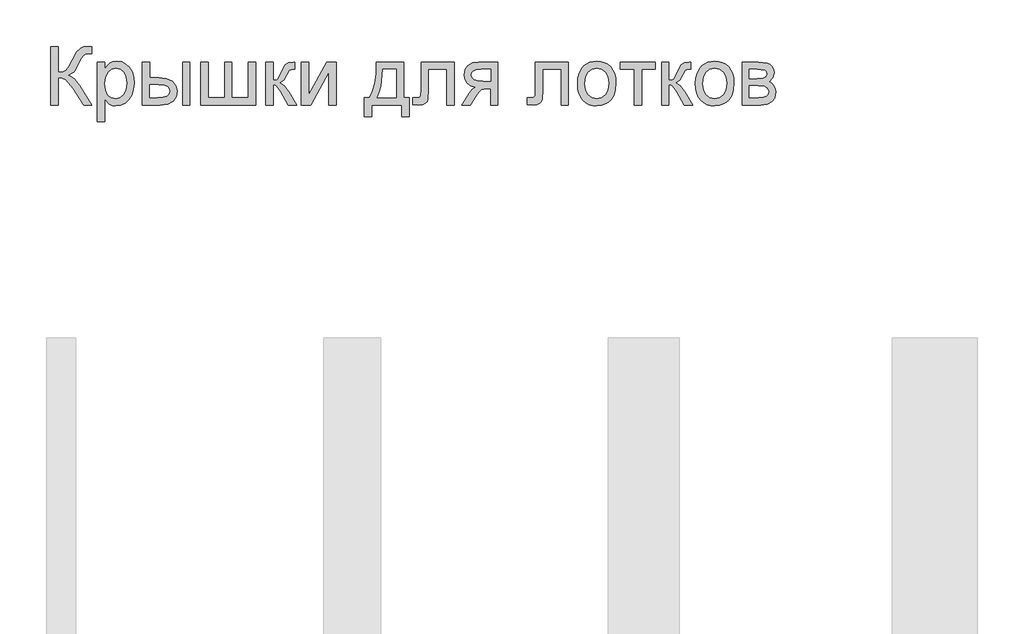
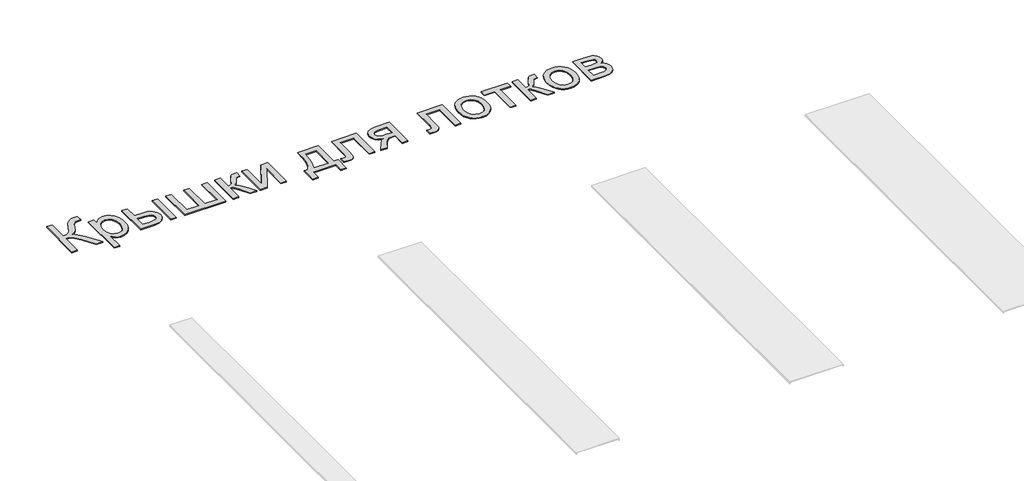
# One storey, part 10 of 11: 1 proxy.
"""IFC4 building model written with IfcOpenShell, lengths in millimetres."""

from ifc_helpers import new_model, si_unit, origin, origin_with_axes, place, context, project, spatial, polyline, outline, extrude, element, save

model = new_model("IFC4")

# Units and contexts
model_context = context("Model", 3, world=origin())
ifc_project = project(units=[si_unit("LENGTHUNIT", "METRE", prefix="MILLI")], contexts=[model_context])

# Site, building, storey
site = spatial("IfcSite", under=ifc_project)
building = spatial("IfcBuilding", under=site)
storey = spatial("IfcBuildingStorey", under=building, Name="Этаж 01", Elevation=0.0)

# Proxy
placement = place(None, origin())
element("IfcBuildingElementProxy", 1, Name="АБН_Маленькая надпись", ObjectType="АБН_Маленькая надпись", at=placement, inside=storey, context=model_context, shape_type="SweptSolid", body=[
    extrude(outline(polyline([(-9207.2203925, 12032.6703326), (-9175.8277956, 12032.6703326), (-9175.8277956, 11922.7962434), (-9154.5749462, 11924.8732439), (-9140.7257219, 11931.1042451), (-9129.5283137, 11945.7658755), (-9116.2309124, 11973.1347631), (-9098.9098018, 12008.2368368), (-9079.2894287, 12025.6192611), (-9065.9153854, 12030.9075648), (-9051.2384266, 12032.6703326), (-9030.6370349, 12032.3024507), (-9030.6370349, 12000.9098537), (-9037.5654791, 12001.0937947), (-9044.4939233, 12001.2777357), (-9058.871978, 11999.3923405), (-9069.0193897, 11993.7361548), (-9077.7565871, 11981.8566321), (-9087.6587441, 11961.4238529), (-9099.8065142, 11935.9786816), (-9109.884948, 11922.0604794), (-9131.5593289, 11909.0619823), (-9119.4000625, 11903.8886417), (-9107.3251024, 11894.8678686), (-9083.4281012, 11865.2840248), (-9030.6370349, 11781.5295573), (-9067.0573524, 11781.5295573), (-9111.6937011, 11852.2855277), (-9143.1169549, 11889.2270114), (-9157.6253011, 11896.7455996), (-9175.8277956, 11899.2517957), (-9175.8277956, 11781.5295573), (-9207.2203925, 11781.5295573), (-9207.2203925, 12032.6703326)])), origin_with_axes(), (0.0, 0.0, 1.0), 5.0),
    extrude(outline(polyline([(-9007.0925872, 11710.8962142), (-9007.0925872, 11965.9610642), (-8975.6999902, 11965.9610642), (-8975.6999902, 11935.1816039), (-8965.460608, 11950.3644004), (-8953.9949525, 11961.2092551), (-8940.6285734, 11967.7161679), (-8924.6870202, 11969.8851388), (-8903.4571634, 11966.8501123), (-8884.8944511, 11957.745033), (-8869.7806325, 11943.1217237), (-8858.8974568, 11923.5320074), (-8852.3215661, 11900.401427), (-8850.1296026, 11875.155525), (-8852.6051418, 11848.3078036), (-8860.0317596, 11824.2958392), (-8872.1718654, 11804.338241), (-8888.7878689, 11789.653618), (-8908.1399947, 11780.6175165), (-8928.4884675, 11777.6054827), (-8942.9201716, 11779.6211694), (-8955.8037057, 11785.6682297), (-8975.6999902, 11806.0550236), (-8975.6999902, 11710.8962142), (-9007.0925872, 11710.8962142)]), holes=[polyline([(-8975.6999902, 11872.2737828), (-8972.304746, 11844.1308101), (-8962.1190133, 11824.4491234), (-8947.0895009, 11812.8608405), (-8929.1629179, 11808.9980796), (-8910.9450949, 11812.9987963), (-8895.5323721, 11825.0009464), (-8885.0247426, 11845.4030687), (-8881.5221995, 11874.6037021), (-8884.9404364, 11902.5933905), (-8895.195147, 11922.5509888), (-8910.2016667, 11934.5071536), (-8927.8753309, 11938.4925419), (-8945.6179729, 11934.2542347), (-8961.1993083, 11921.5393133), (-8972.0748197, 11900.7463163), (-8975.6999902, 11872.2737828)])]), origin_with_axes(), (0.0, 0.0, 1.0), 5.0),
    extrude(outline(polyline([(-8642.1536479, 11965.9610642), (-8610.761051, 11965.9610642), (-8610.761051, 11781.5295573), (-8642.1536479, 11781.5295573), (-8642.1536479, 11965.9610642)])), origin_with_axes(), (0.0, 0.0, 1.0), 5.0),
    extrude(outline(polyline([(-8814.812931, 11965.9610642), (-8783.4203341, 11965.9610642), (-8783.4203341, 11899.2517957), (-8744.6087836, 11899.2517957), (-8711.0625442, 11895.3200569), (-8686.2075169, 11883.5248404), (-8670.8254509, 11864.8165081), (-8665.6980956, 11840.1454218), (-8669.9977165, 11817.6816275), (-8682.8965789, 11798.7280405), (-8705.2377459, 11785.8291781), (-8737.8642804, 11781.5295573), (-8814.812931, 11781.5295573), (-8814.812931, 11965.9610642)]), holes=[polyline([(-8783.4203341, 11812.9221542), (-8751.1693459, 11812.9221542), (-8726.1686986, 11814.569959), (-8709.5373667, 11819.5133733), (-8700.2023611, 11827.9516665), (-8697.0906926, 11840.0841082), (-8699.3976192, 11850.3388188), (-8706.3183993, 11859.3979129), (-8721.1179854, 11865.7438773), (-8747.0613302, 11867.8591988), (-8783.4203341, 11867.8591988), (-8783.4203341, 11812.9221542)])]), origin_with_axes(), (0.0, 0.0, 1.0), 5.0),
    extrude(outline(polyline([(-8563.6721556, 11965.9610642), (-8532.2795587, 11965.9610642), (-8532.2795587, 11812.9221542), (-8461.6462156, 11812.9221542), (-8461.6462156, 11965.9610642), (-8430.2536187, 11965.9610642), (-8430.2536187, 11812.9221542), (-8359.6202757, 11812.9221542), (-8359.6202757, 11965.9610642), (-8328.2276787, 11965.9610642), (-8328.2276787, 11781.5295573), (-8563.6721556, 11781.5295573), (-8563.6721556, 11965.9610642)])), origin_with_axes(), (0.0, 0.0, 1.0), 5.0),
    extrude(outline(polyline([(-8285.062858, 11965.9610642), (-8253.670261, 11965.9610642), (-8253.670261, 11887.4795719), (-8240.9016901, 11888.8897862), (-8232.6396737, 11893.1204291), (-8215.4105335, 11925.984554), (-8201.0937926, 11954.3421245), (-8188.4631774, 11963.5698312), (-8165.5012095, 11965.9610642), (-8159.4924703, 11965.9610642), (-8159.4924703, 11934.3845263), (-8167.9537562, 11934.5684673), (-8183.2821726, 11931.2575293), (-8194.0733778, 11910.5948239), (-8206.7346498, 11888.2459927), (-8224.4849561, 11877.3015034), (-8204.680642, 11865.0847554), (-8185.2442099, 11839.3483442), (-8151.644321, 11781.5295573), (-8187.3288746, 11781.5295573), (-8220.2543131, 11838.1220709), (-8236.8090029, 11862.0650574), (-8244.5498532, 11866.4106635), (-8253.670261, 11867.8591988), (-8253.670261, 11781.5295573), (-8285.062858, 11781.5295573), (-8285.062858, 11965.9610642)])), origin_with_axes(), (0.0, 0.0, 1.0), 5.0),
    extrude(outline(polyline([(-8132.023948, 11965.9610642), (-8100.631351, 11965.9610642), (-8100.631351, 11825.3075147), (-8023.4987594, 11965.9610642), (-7982.9091126, 11965.9610642), (-7982.9091126, 11781.5295573), (-8014.3017095, 11781.5295573), (-8014.3017095, 11921.3247154), (-8090.9437918, 11781.5295573), (-8132.023948, 11781.5295573), (-8132.023948, 11965.9610642)])), origin_with_axes(), (0.0, 0.0, 1.0), 5.0),
    extrude(outline(polyline([(-7810.2498295, 11965.9610642), (-7692.5275911, 11965.9610642), (-7692.5275911, 11812.9221542), (-7668.9831434, 11812.9221542), (-7668.9831434, 11730.5165873), (-7700.3757403, 11730.5165873), (-7700.3757403, 11781.5295573), (-7829.8702026, 11781.5295573), (-7829.8702026, 11730.5165873), (-7861.2627995, 11730.5165873), (-7861.2627995, 11812.9221542), (-7841.6424264, 11812.9221542), (-7827.3793349, 11838.6968865), (-7817.3928716, 11872.7949489), (-7811.6830365, 11915.2163415), (-7810.2498295, 11965.9610642)]), holes=[polyline([(-7782.7813072, 11934.5684673), (-7790.1389471, 11863.046076), (-7797.128705, 11835.3093064), (-7806.3257549, 11812.9221542), (-7723.920188, 11812.9221542), (-7723.920188, 11934.5684673), (-7782.7813072, 11934.5684673)])]), origin_with_axes(), (0.0, 0.0, 1.0), 5.0),
    extrude(outline(polyline([(-7617.9701734, 11965.9610642), (-7476.7034872, 11965.9610642), (-7476.7034872, 11781.7134983), (-7508.0960842, 11781.7134983), (-7508.0960842, 11934.5684673), (-7586.5775765, 11934.5684673), (-7586.5775765, 11846.5833568), (-7588.6928979, 11805.99371), (-7592.6552936, 11796.8043243), (-7600.3118376, 11788.8565403), (-7611.9307773, 11783.361303), (-7627.7803599, 11781.5295573), (-7653.2868449, 11783.1237126), (-7653.2868449, 11812.9221542), (-7639.2460154, 11812.9221542), (-7625.0519018, 11814.8535347), (-7619.3803877, 11820.9849013), (-7617.9701734, 11848.3614531), (-7617.9701734, 11965.9610642)])), origin_with_axes(), (0.0, 0.0, 1.0), 5.0),
    extrude(outline(polyline([(-7288.3479057, 11965.9610642), (-7288.3479057, 11781.5295573), (-7319.7405026, 11781.5295573), (-7319.7405026, 11852.1629003), (-7336.8470154, 11852.1629003), (-7360.1462084, 11848.1775121), (-7369.4505572, 11839.4862999), (-7382.0351871, 11821.3834401), (-7407.0511628, 11781.5295573), (-7443.348853, 11781.5295573), (-7411.8336287, 11831.9293906), (-7397.9154266, 11850.016922), (-7385.1008704, 11858.0490123), (-7406.5606535, 11864.6249029), (-7421.6438153, 11877.1175624), (-7430.5649537, 11893.7335658), (-7433.5386665, 11912.6794886), (-7429.4766361, 11934.1699284), (-7417.290545, 11951.1844707), (-7397.4095889, 11962.2669158), (-7370.2629633, 11965.9610642), (-7288.3479057, 11965.9610642)]), holes=[polyline([(-7319.7405026, 11934.5684673), (-7361.1272271, 11934.5684673), (-7382.5027038, 11932.7520499), (-7394.6351455, 11927.3027979), (-7400.2683385, 11919.4163276), (-7402.1460695, 11910.2882556), (-7399.3792904, 11898.3244265), (-7391.0789529, 11890.024089), (-7375.7428722, 11885.1726452), (-7351.8688635, 11883.5554973), (-7319.7405026, 11883.5554973), (-7319.7405026, 11934.5684673)])]), origin_with_axes(), (0.0, 0.0, 1.0), 5.0),
    extrude(outline(polyline([(-7127.4608465, 11965.9610642), (-6986.1941603, 11965.9610642), (-6986.1941603, 11781.7134983), (-7017.5867572, 11781.7134983), (-7017.5867572, 11934.5684673), (-7096.0682496, 11934.5684673), (-7096.0682496, 11846.5833568), (-7098.183571, 11805.99371), (-7102.1459667, 11796.8043243), (-7109.8025107, 11788.8565403), (-7121.4214504, 11783.361303), (-7137.271033, 11781.5295573), (-7162.777518, 11783.1237126), (-7162.777518, 11812.9221542), (-7148.7366885, 11812.9221542), (-7134.5425749, 11814.8535347), (-7128.8710608, 11820.9849013), (-7127.4608465, 11848.3614531), (-7127.4608465, 11965.9610642)])), origin_with_axes(), (0.0, 0.0, 1.0), 5.0),
    extrude(outline(polyline([(-6946.9534142, 11873.7453107), (-6945.2557921, 11897.6308157), (-6940.1629257, 11918.2130469), (-6931.6748151, 11935.4920044), (-6919.7914602, 11949.4676881), (-6894.6222004, 11964.7807761), (-6864.4865336, 11969.8851388), (-6847.167339, 11968.3312206), (-6831.5074456, 11963.6694659), (-6817.5068532, 11955.8998748), (-6805.1655619, 11945.0224473), (-6795.0928762, 11931.4050653), (-6787.8981007, 11915.4156109), (-6783.5812354, 11897.054084), (-6782.1422803, 11876.3204847), (-6784.6867975, 11844.605991), (-6792.3203489, 11820.4637351), (-6804.8206725, 11802.3838679), (-6821.9655063, 11788.8565403), (-6842.3293076, 11780.4182471), (-6864.4865336, 11777.6054827), (-6882.058647, 11779.1536527), (-6897.8641604, 11783.7981629), (-6911.9030739, 11791.5390132), (-6924.1753873, 11802.3762037), (-6934.1407741, 11816.1257932), (-6941.2589075, 11832.6038409), (-6945.5297875, 11851.8103468), (-6946.9534142, 11873.7453107)]), holes=[polyline([(-6915.5608173, 11873.8066244), (-6911.9279826, 11845.3954045), (-6901.0294784, 11825.1542305), (-6884.6280728, 11813.0371173), (-6864.4865336, 11808.9980796), (-6844.4369649, 11813.0601099), (-6828.0662161, 11825.246201), (-6817.167712, 11845.7556223), (-6813.5348773, 11874.7876431), (-6817.1907046, 11902.3711285), (-6828.1581866, 11922.3363909), (-6844.551928, 11934.4535041), (-6864.4865336, 11938.4925419), (-6884.6280728, 11934.4688326), (-6901.0294784, 11922.3977046), (-6911.9279826, 11902.2025159), (-6915.5608173, 11873.8066244)])]), origin_with_axes(), (0.0, 0.0, 1.0), 5.0),
    extrude(outline(polyline([(-6762.5219073, 11965.9610642), (-6613.4070719, 11965.9610642), (-6613.4070719, 11934.5684673), (-6672.2681911, 11934.5684673), (-6672.2681911, 11781.5295573), (-6703.660788, 11781.5295573), (-6703.660788, 11934.5684673), (-6762.5219073, 11934.5684673), (-6762.5219073, 11965.9610642)])), origin_with_axes(), (0.0, 0.0, 1.0), 5.0),
    extrude(outline(polyline([(-6585.9385496, 11965.9610642), (-6554.5459527, 11965.9610642), (-6554.5459527, 11887.4795719), (-6541.7773817, 11888.8897862), (-6533.5153653, 11893.1204291), (-6516.2862252, 11925.984554), (-6501.9694842, 11954.3421245), (-6489.338869, 11963.5698312), (-6466.3769011, 11965.9610642), (-6460.3681619, 11965.9610642), (-6460.3681619, 11934.3845263), (-6468.8294478, 11934.5684673), (-6484.1578642, 11931.2575293), (-6494.9490694, 11910.5948239), (-6507.6103414, 11888.2459927), (-6525.3606477, 11877.3015034), (-6505.5563336, 11865.0847554), (-6486.1199016, 11839.3483442), (-6452.5200127, 11781.5295573), (-6488.2045662, 11781.5295573), (-6521.1300048, 11838.1220709), (-6537.6846945, 11862.0650574), (-6545.4255449, 11866.4106635), (-6554.5459527, 11867.8591988), (-6554.5459527, 11781.5295573), (-6585.9385496, 11781.5295573), (-6585.9385496, 11965.9610642)])), origin_with_axes(), (0.0, 0.0, 1.0), 5.0),
    extrude(outline(polyline([(-6440.7477888, 11873.7453107), (-6439.0501667, 11897.6308157), (-6433.9573003, 11918.2130469), (-6425.4691897, 11935.4920044), (-6413.5858348, 11949.4676881), (-6388.416575, 11964.7807761), (-6358.2809082, 11969.8851388), (-6340.9617137, 11968.3312206), (-6325.3018202, 11963.6694659), (-6311.3012278, 11955.8998748), (-6298.9599365, 11945.0224473), (-6288.8872508, 11931.4050653), (-6281.6924754, 11915.4156109), (-6277.3756101, 11897.054084), (-6275.936655, 11876.3204847), (-6278.4811721, 11844.605991), (-6286.1147235, 11820.4637351), (-6298.6150471, 11802.3838679), (-6315.759881, 11788.8565403), (-6336.1236822, 11780.4182471), (-6358.2809082, 11777.6054827), (-6375.8530217, 11779.1536527), (-6391.6585351, 11783.7981629), (-6405.6974485, 11791.5390132), (-6417.9697619, 11802.3762037), (-6427.9351487, 11816.1257932), (-6435.0532821, 11832.6038409), (-6439.3241621, 11851.8103468), (-6440.7477888, 11873.7453107)]), holes=[polyline([(-6409.3551919, 11873.8066244), (-6405.7223572, 11845.3954045), (-6394.8238531, 11825.1542305), (-6378.4224475, 11813.0371173), (-6358.2809082, 11808.9980796), (-6338.2313395, 11813.0601099), (-6321.8605907, 11825.246201), (-6310.9620866, 11845.7556223), (-6307.3292519, 11874.7876431), (-6310.9850792, 11902.3711285), (-6321.9525612, 11922.3363909), (-6338.3463026, 11934.4535041), (-6358.2809082, 11938.4925419), (-6378.4224475, 11934.4688326), (-6394.8238531, 11922.3977046), (-6405.7223572, 11902.2025159), (-6409.3551919, 11873.8066244)])]), origin_with_axes(), (0.0, 0.0, 1.0), 5.0),
    extrude(outline(polyline([(-6240.6199834, 11965.9610642), (-6171.4581683, 11965.9610642), (-6133.535666, 11961.7610781), (-6121.9933684, 11955.8136525), (-6112.1985103, 11946.3713479), (-6105.5076565, 11934.0702937), (-6103.2773719, 11919.5466191), (-6108.6729745, 11897.7496109), (-6124.921096, 11882.2065966), (-6113.3021563, 11875.6843554), (-6103.8291949, 11865.1920543), (-6097.5292157, 11851.5574279), (-6095.4292227, 11835.6082106), (-6100.7481832, 11811.6805525), (-6113.3941268, 11794.8346228), (-6133.4130387, 11784.8558236), (-6160.8509041, 11781.5295573), (-6240.6199834, 11781.5295573), (-6240.6199834, 11965.9610642)]), holes=[polyline([(-6209.2273865, 11895.3277211), (-6178.2026716, 11895.3277211), (-6152.6042161, 11896.9218764), (-6140.1575419, 11903.2984977), (-6134.6699688, 11914.8254669), (-6137.0765302, 11924.1911293), (-6144.2962144, 11930.215197), (-6177.2216529, 11934.5684673), (-6209.2273865, 11934.5684673), (-6209.2273865, 11895.3277211)]), polyline([(-6209.2273865, 11812.9221542), (-6170.7224044, 11812.9221542), (-6149.7378022, 11814.3400327), (-6136.5706925, 11818.5936683), (-6129.5042925, 11826.3268544), (-6126.8218196, 11838.1833845), (-6132.1867654, 11853.2972032), (-6146.1662812, 11862.0957142), (-6173.7880876, 11863.9351242), (-6209.2273865, 11863.9351242), (-6209.2273865, 11812.9221542)])]), origin_with_axes(), (0.0, 0.0, 1.0), 5.0),
])

save(model, "model.ifc")
